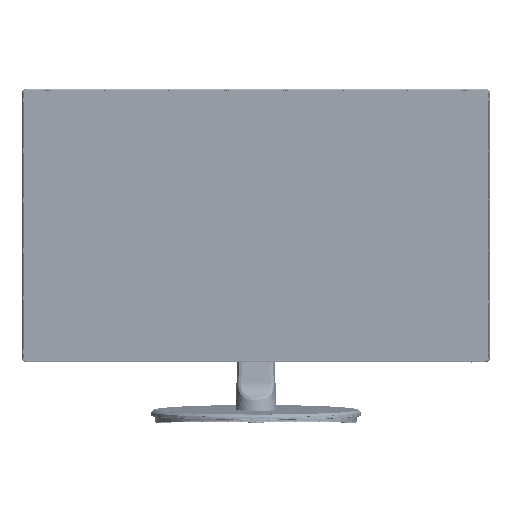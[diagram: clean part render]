
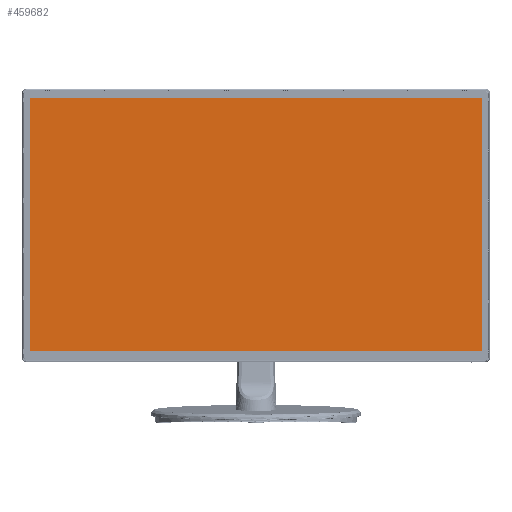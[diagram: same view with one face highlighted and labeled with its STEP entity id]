
A CAD part, top view. The second image highlights one B-rep face of the part: STEP entity #459682.
In plain terms, the highlighted planar face has unit normal (0, 0, 1).
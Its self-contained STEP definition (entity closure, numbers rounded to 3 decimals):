
#21758 = VERTEX_POINT ( 'NONE', #562011 ) ;
#31832 = VERTEX_POINT ( 'NONE', #175406 ) ;
#36280 = AXIS2_PLACEMENT_3D ( 'NONE', #248786, #66089, #427528 ) ;
#62005 = CARTESIAN_POINT ( 'NONE',  ( -298.944, 168.156, 7.63 ) ) ;
#66089 = DIRECTION ( 'NONE',  ( 0., 0., 1. ) ) ;
#112220 = ORIENTED_EDGE ( 'NONE', *, *, #203117, .T. ) ;
#123153 = ORIENTED_EDGE ( 'NONE', *, *, #424305, .T. ) ;
#142148 = LINE ( 'NONE', #301672, #535600 ) ;
#143135 = ORIENTED_EDGE ( 'NONE', *, *, #168868, .T. ) ;
#143577 = CARTESIAN_POINT ( 'NONE',  ( -298.944, -168.156, 7.63 ) ) ;
#168868 = EDGE_CURVE ( 'NONE', #21758, #342325, #567821, .T. ) ;
#172046 = DIRECTION ( 'NONE',  ( 0., -1., 0. ) ) ;
#175406 = CARTESIAN_POINT ( 'NONE',  ( 298.944, -168.156, 7.63 ) ) ;
#192399 = VECTOR ( 'NONE', #230061, 1000. ) ;
#203117 = EDGE_CURVE ( 'NONE', #387984, #31832, #365074, .T. ) ;
#221388 = EDGE_LOOP ( 'NONE', ( #321639, #112220, #123153, #143135 ) ) ;
#230061 = DIRECTION ( 'NONE',  ( 0., 1., 0. ) ) ;
#233549 = FACE_OUTER_BOUND ( 'NONE', #221388, .T. ) ;
#248786 = CARTESIAN_POINT ( 'NONE',  ( 0., 0., 7.63 ) ) ;
#301672 = CARTESIAN_POINT ( 'NONE',  ( -298.944, 168.156, 7.63 ) ) ;
#311699 = DIRECTION ( 'NONE',  ( 1., 0., 0. ) ) ;
#321639 = ORIENTED_EDGE ( 'NONE', *, *, #459807, .T. ) ;
#342325 = VERTEX_POINT ( 'NONE', #560594 ) ;
#365074 = LINE ( 'NONE', #537633, #400035 ) ;
#384304 = PLANE ( 'NONE',  #36280 ) ;
#387984 = VERTEX_POINT ( 'NONE', #143577 ) ;
#400035 = VECTOR ( 'NONE', #311699, 1000. ) ;
#408753 = CARTESIAN_POINT ( 'NONE',  ( 298.944, 168.156, 7.63 ) ) ;
#424305 = EDGE_CURVE ( 'NONE', #31832, #21758, #445576, .T. ) ;
#427528 = DIRECTION ( 'NONE',  ( 1., 0., 0. ) ) ;
#445576 = LINE ( 'NONE', #408753, #192399 ) ;
#459682 = ADVANCED_FACE ( 'NONE', ( #233549 ), #384304, .T. ) ;
#459807 = EDGE_CURVE ( 'NONE', #342325, #387984, #142148, .T. ) ;
#511828 = DIRECTION ( 'NONE',  ( -1., 0., 0. ) ) ;
#535600 = VECTOR ( 'NONE', #172046, 1000. ) ;
#537633 = CARTESIAN_POINT ( 'NONE',  ( -298.944, -168.156, 7.63 ) ) ;
#560594 = CARTESIAN_POINT ( 'NONE',  ( -298.944, 168.156, 7.63 ) ) ;
#562011 = CARTESIAN_POINT ( 'NONE',  ( 298.944, 168.156, 7.63 ) ) ;
#567821 = LINE ( 'NONE', #62005, #574557 ) ;
#574557 = VECTOR ( 'NONE', #511828, 1000. ) ;
